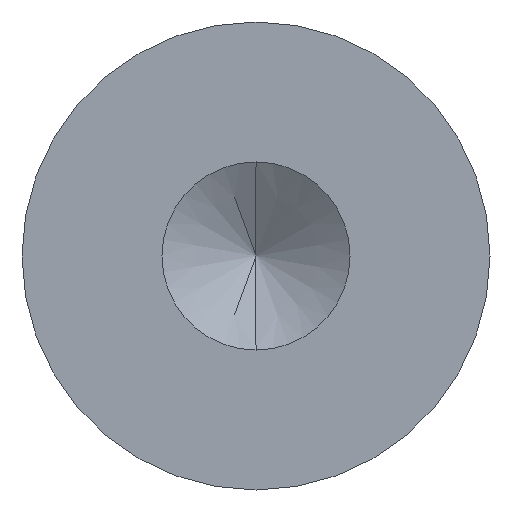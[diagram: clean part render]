
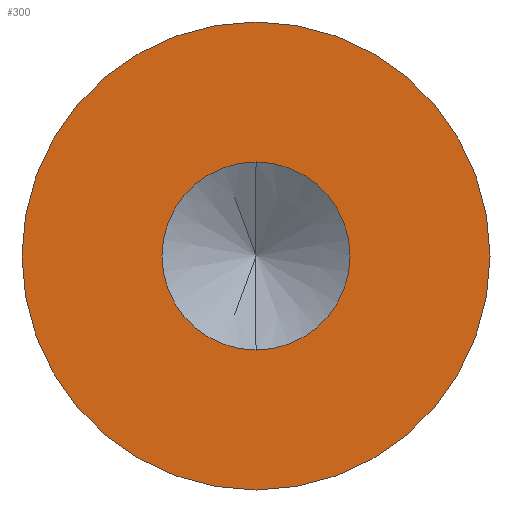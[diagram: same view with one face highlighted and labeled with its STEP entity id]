
A CAD part, front view. The second image highlights one B-rep face of the part: STEP entity #300.
In plain terms, the highlighted planar face has unit normal (0, -1, 0).
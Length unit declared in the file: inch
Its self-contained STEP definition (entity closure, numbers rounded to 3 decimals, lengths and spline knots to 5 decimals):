
#1 = EDGE_CURVE ( 'NONE', #325, #327, #127, .T. ) ;
#6 = AXIS2_PLACEMENT_3D ( 'NONE', #181, #182, #200 ) ;
#8 = EDGE_CURVE ( 'NONE', #321, #322, #126, .T. ) ;
#15 = EDGE_CURVE ( 'NONE', #322, #321, #132, .T. ) ;
#22 = AXIS2_PLACEMENT_3D ( 'NONE', #320, #315, #319 ) ;
#25 = AXIS2_PLACEMENT_3D ( 'NONE', #225, #236, #221 ) ;
#37 = EDGE_CURVE ( 'NONE', #327, #325, #157, .T. ) ;
#40 = AXIS2_PLACEMENT_3D ( 'NONE', #250, #249, #248 ) ;
#45 = AXIS2_PLACEMENT_3D ( 'NONE', #180, #208, #241 ) ;
#70 = ORIENTED_EDGE ( 'NONE', *, *, #37, .F. ) ;
#72 = ORIENTED_EDGE ( 'NONE', *, *, #15, .T. ) ;
#85 = FACE_OUTER_BOUND ( 'NONE', #109, .T. ) ;
#96 = ORIENTED_EDGE ( 'NONE', *, *, #8, .T. ) ;
#97 = ORIENTED_EDGE ( 'NONE', *, *, #1, .F. ) ;
#107 = EDGE_LOOP ( 'NONE', ( #97, #70 ) ) ;
#109 = EDGE_LOOP ( 'NONE', ( #96, #72 ) ) ;
#126 = CIRCLE ( 'NONE', #25, 0.25 ) ;
#127 = CIRCLE ( 'NONE', #22, 0.1005 ) ;
#132 = CIRCLE ( 'NONE', #40, 0.25 ) ;
#149 = FACE_BOUND ( 'NONE', #107, .T. ) ;
#157 = CIRCLE ( 'NONE', #45, 0.1005 ) ;
#179 = PLANE ( 'NONE',  #6 ) ;
#180 = CARTESIAN_POINT ( 'NONE',  ( 0., 0., 0. ) ) ;
#181 = CARTESIAN_POINT ( 'NONE',  ( 0., 0., 0. ) ) ;
#182 = DIRECTION ( 'NONE',  ( 0., 1., 0. ) ) ;
#200 = DIRECTION ( 'NONE',  ( 0., 0., 1. ) ) ;
#208 = DIRECTION ( 'NONE',  ( 0., -1., 0. ) ) ;
#221 = DIRECTION ( 'NONE',  ( 0., 0., -1. ) ) ;
#225 = CARTESIAN_POINT ( 'NONE',  ( 0., 0., 0. ) ) ;
#236 = DIRECTION ( 'NONE',  ( 0., -1., 0. ) ) ;
#241 = DIRECTION ( 'NONE',  ( 0., 0., -1. ) ) ;
#248 = DIRECTION ( 'NONE',  ( 0., 0., -1. ) ) ;
#249 = DIRECTION ( 'NONE',  ( 0., -1., 0. ) ) ;
#250 = CARTESIAN_POINT ( 'NONE',  ( 0., 0., 0. ) ) ;
#261 = CARTESIAN_POINT ( 'NONE',  ( 0., 0., 0.25 ) ) ;
#263 = CARTESIAN_POINT ( 'NONE',  ( 0., 0., 0.1005 ) ) ;
#267 = CARTESIAN_POINT ( 'NONE',  ( 0., 0., -0.1005 ) ) ;
#290 = CARTESIAN_POINT ( 'NONE',  ( 0., 0., -0.25 ) ) ;
#300 = ADVANCED_FACE ( 'NONE', ( #149, #85 ), #179, .F. ) ;
#315 = DIRECTION ( 'NONE',  ( 0., -1., 0. ) ) ;
#319 = DIRECTION ( 'NONE',  ( 0., 0., -1. ) ) ;
#320 = CARTESIAN_POINT ( 'NONE',  ( 0., 0., 0. ) ) ;
#321 = VERTEX_POINT ( 'NONE', #290 ) ;
#322 = VERTEX_POINT ( 'NONE', #261 ) ;
#325 = VERTEX_POINT ( 'NONE', #267 ) ;
#327 = VERTEX_POINT ( 'NONE', #263 ) ;
